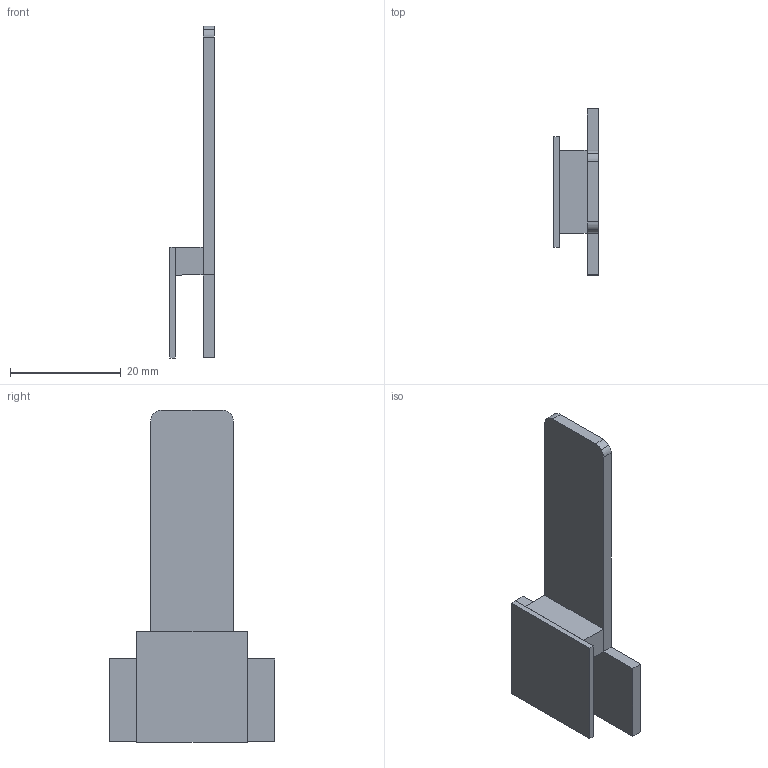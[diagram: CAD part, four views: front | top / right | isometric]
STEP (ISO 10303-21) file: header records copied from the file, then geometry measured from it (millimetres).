
FILE_DESCRIPTION(('STEP AP214'),'1');
FILE_NAME('tmp0.STEP','2026-07-09T17:24:36',(' '),(' '),'Spatial InterOp 3D',' ',' ');
FILE_SCHEMA(('AUTOMOTIVE_DESIGN { 1 0 10303 214 1 1 1 1 }'));
Length unit declared in the file: millimetre
Products named in the file (1): Thickness Data
Bounding box: 8 x 30 x 60 mm (x, y, z)
Volume: 3021.6 mm3; surface area: 3833.1 mm2
Topology: 3 solids, 3 shells, 26 faces, 60 edges, 40 vertices
Faces by surface type: plane 22, cylinder 4
Entity records: 781 total; most frequent: CARTESIAN_POINT 129, DIRECTION 126, ORIENTED_EDGE 120, EDGE_CURVE 60, LINE 52, VECTOR 52, VERTEX_POINT 40, AXIS2_PLACEMENT_3D 37
